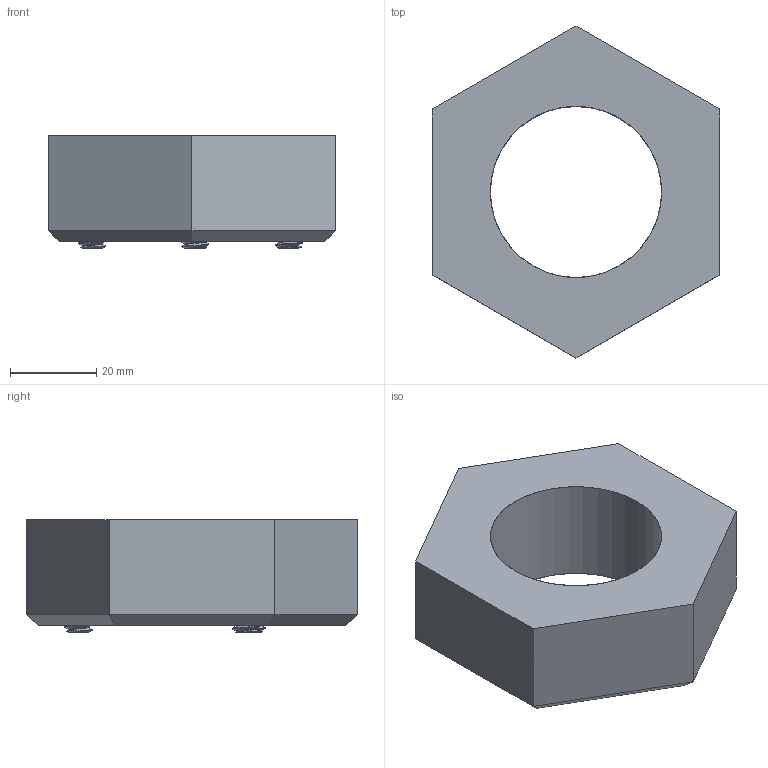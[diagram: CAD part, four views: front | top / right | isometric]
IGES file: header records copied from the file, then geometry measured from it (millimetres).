
Start section: SolidWorks IGES file using analytic representation for surfaces
Global section: file name: C:\Manufacturing Design Services\Taperline Manufacturing\TLHN - PLHN HEX NUTS\TLHN 134-12\TLHN 134-12.IGS; native system: SolidWorks 2010; preprocessor: SolidWorks 2010; author: ProBook; date: 111204.222804; units: inch
Bounding box: 66.65 x 76.96 x 26.2 mm (x, y, z)
Surface area: 19593.7 mm2 (no closed solid volume)
Topology: 0 solids, 0 shells, 276 faces, 5189 edges, 5186 vertices
Faces by surface type: revolution 208, bspline 68
